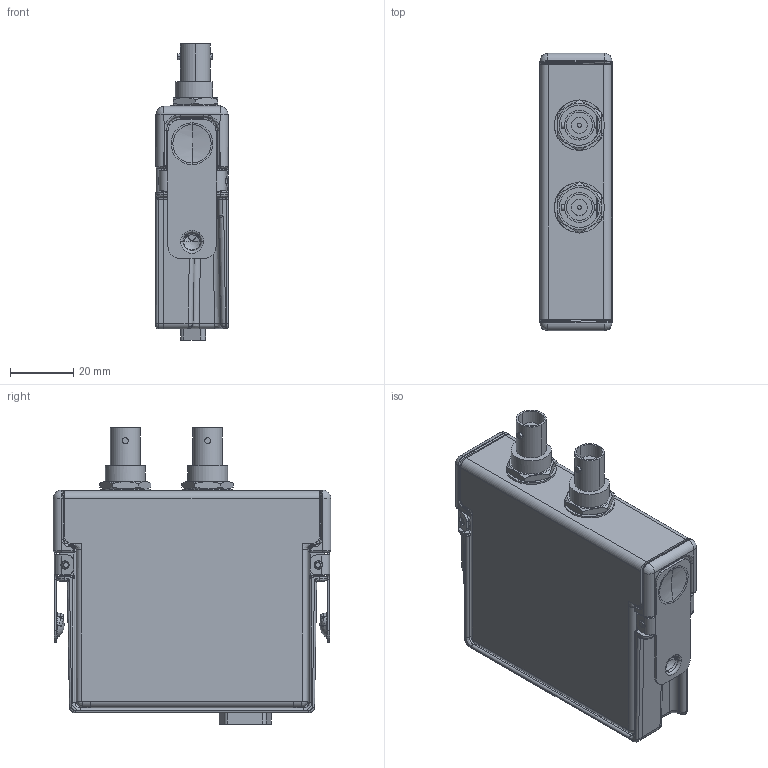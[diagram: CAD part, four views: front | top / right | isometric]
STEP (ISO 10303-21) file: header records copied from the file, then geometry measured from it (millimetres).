
FILE_DESCRIPTION((''),'2;1');
FILE_NAME('CU_NI-9250_BNC','2017-01-25T',('kleong'),(''),'CREO PARAMETRIC BY PTC INC, 2015380','CREO PARAMETRIC BY PTC INC, 2015380','');
FILE_SCHEMA(('CONFIG_CONTROL_DESIGN'));
Products named in the file (1): CU_NI-9250_BNC
Bounding box: 22.86 x 88.11 x 94.06 mm (x, y, z)
Volume: 45008.3 mm3; surface area: 47921.7 mm2
Topology: 9 solids, 9 shells, 1392 faces, 3369 edges, 1960 vertices
Faces by surface type: cylinder 472, plane 424, bspline 365, torus 56, sphere 39, cone 30, extrusion 6
Entity records: 60458 total; most frequent: CARTESIAN_POINT 31030, ORIENTED_EDGE 6594, DIRECTION 5343, EDGE_CURVE 3297, VERTEX_POINT 1998, AXIS2_PLACEMENT_3D 1941, VECTOR 1461, LINE 1455
